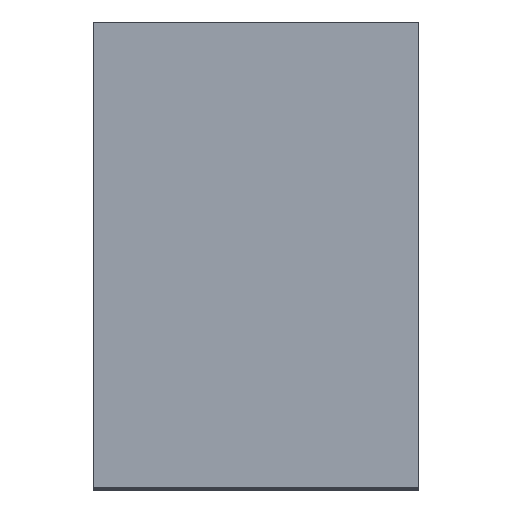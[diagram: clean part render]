
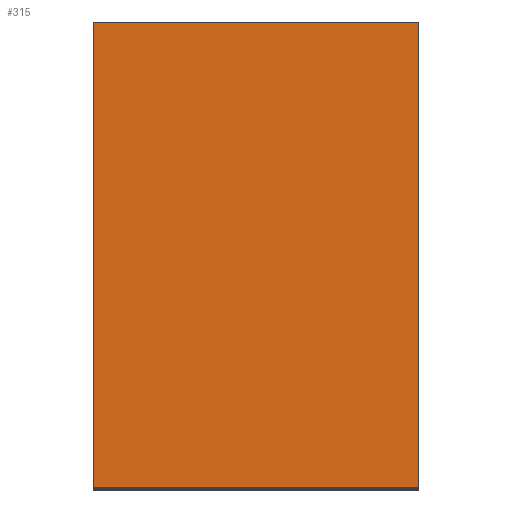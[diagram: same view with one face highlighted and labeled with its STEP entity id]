
A CAD part, top view. The second image highlights one B-rep face of the part: STEP entity #315.
In plain terms, the highlighted planar face has unit normal (0, 0, 1).
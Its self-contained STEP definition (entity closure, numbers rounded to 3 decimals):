
#45=FACE_OUTER_BOUND('',#65,.T.);
#65=EDGE_LOOP('',(#273,#274,#275,#276));
#86=LINE('',#490,#120);
#89=LINE('',#495,#123);
#96=LINE('',#517,#130);
#100=LINE('',#524,#134);
#120=VECTOR('',#398,10.);
#123=VECTOR('',#403,10.);
#130=VECTOR('',#426,10.);
#134=VECTOR('',#436,10.);
#153=VERTEX_POINT('',#487);
#154=VERTEX_POINT('',#489);
#155=VERTEX_POINT('',#494);
#162=VERTEX_POINT('',#515);
#186=EDGE_CURVE('',#153,#154,#86,.T.);
#189=EDGE_CURVE('',#155,#154,#89,.T.);
#200=EDGE_CURVE('',#162,#153,#96,.T.);
#204=EDGE_CURVE('',#162,#155,#100,.T.);
#273=ORIENTED_EDGE('',*,*,#204,.T.);
#274=ORIENTED_EDGE('',*,*,#189,.T.);
#275=ORIENTED_EDGE('',*,*,#186,.F.);
#276=ORIENTED_EDGE('',*,*,#200,.F.);
#299=PLANE('',#353);
#315=ADVANCED_FACE('',(#45),#299,.T.);
#353=AXIS2_PLACEMENT_3D('',#523,#434,#435);
#398=DIRECTION('',(0.,-1.,0.));
#403=DIRECTION('',(1.,0.,0.));
#426=DIRECTION('',(1.,0.,0.));
#434=DIRECTION('center_axis',(0.,0.,1.));
#435=DIRECTION('ref_axis',(0.,-1.,0.));
#436=DIRECTION('',(0.,-1.,0.));
#487=CARTESIAN_POINT('',(7.,10.,16.));
#489=CARTESIAN_POINT('',(7.,0.,16.));
#490=CARTESIAN_POINT('',(7.,10.,16.));
#494=CARTESIAN_POINT('',(0.,0.,16.));
#495=CARTESIAN_POINT('',(0.,0.,16.));
#515=CARTESIAN_POINT('',(0.,10.,16.));
#517=CARTESIAN_POINT('',(0.,10.,16.));
#523=CARTESIAN_POINT('Origin',(0.,10.,16.));
#524=CARTESIAN_POINT('',(0.,10.,16.));
